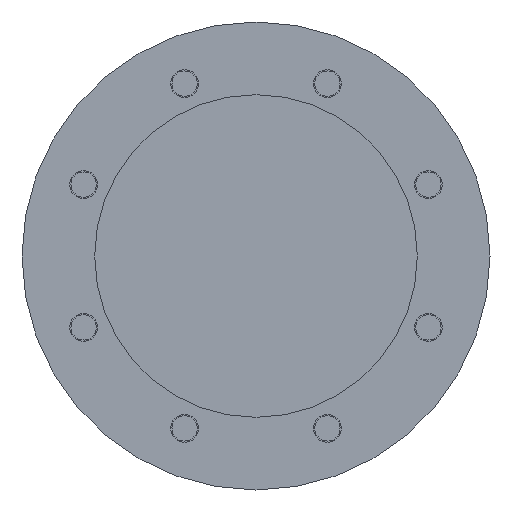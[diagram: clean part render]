
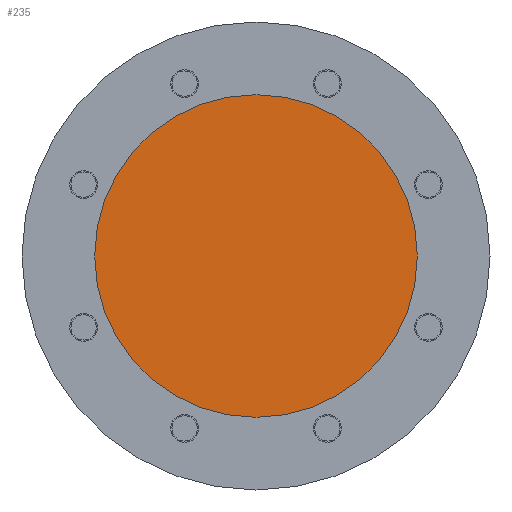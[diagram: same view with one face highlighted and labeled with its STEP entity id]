
A CAD part, front view. The second image highlights one B-rep face of the part: STEP entity #235.
In plain terms, the highlighted planar face has unit normal (0, -1, 0).
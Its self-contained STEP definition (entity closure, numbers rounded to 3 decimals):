
#235 = ADVANCED_FACE( '', ( #586 ), #587, .T. );
#586 = FACE_OUTER_BOUND( '', #959, .T. );
#587 = PLANE( '', #960 );
#959 = EDGE_LOOP( '', ( #2137, #2138 ) );
#960 = AXIS2_PLACEMENT_3D( '', #2139, #2140, #2141 );
#2137 = ORIENTED_EDGE( '', *, *, #2207, .F. );
#2138 = ORIENTED_EDGE( '', *, *, #2558, .F. );
#2139 = CARTESIAN_POINT( '', ( 25.5, -57., 0. ) );
#2140 = DIRECTION( '', ( 0., -1., 0. ) );
#2141 = DIRECTION( '', ( -1., 0., 0. ) );
#2207 = EDGE_CURVE( '', #2570, #2573, #2574, .T. );
#2558 = EDGE_CURVE( '', #2573, #2570, #3158, .T. );
#2570 = VERTEX_POINT( '', #3172 );
#2573 = VERTEX_POINT( '', #3176 );
#2574 = CIRCLE( '', #3177, 51. );
#3158 = CIRCLE( '', #3974, 51. );
#3172 = CARTESIAN_POINT( '', ( 51., -57., 0. ) );
#3176 = CARTESIAN_POINT( '', ( -51., -57., 0. ) );
#3177 = AXIS2_PLACEMENT_3D( '', #3987, #3988, #3989 );
#3974 = AXIS2_PLACEMENT_3D( '', #4614, #4615, #4616 );
#3987 = CARTESIAN_POINT( '', ( 0., -57., 0. ) );
#3988 = DIRECTION( '', ( 0., 1., 0. ) );
#3989 = DIRECTION( '', ( 1., 0., 0. ) );
#4614 = CARTESIAN_POINT( '', ( 0., -57., 0. ) );
#4615 = DIRECTION( '', ( 0., 1., 0. ) );
#4616 = DIRECTION( '', ( 1., 0., 0. ) );
